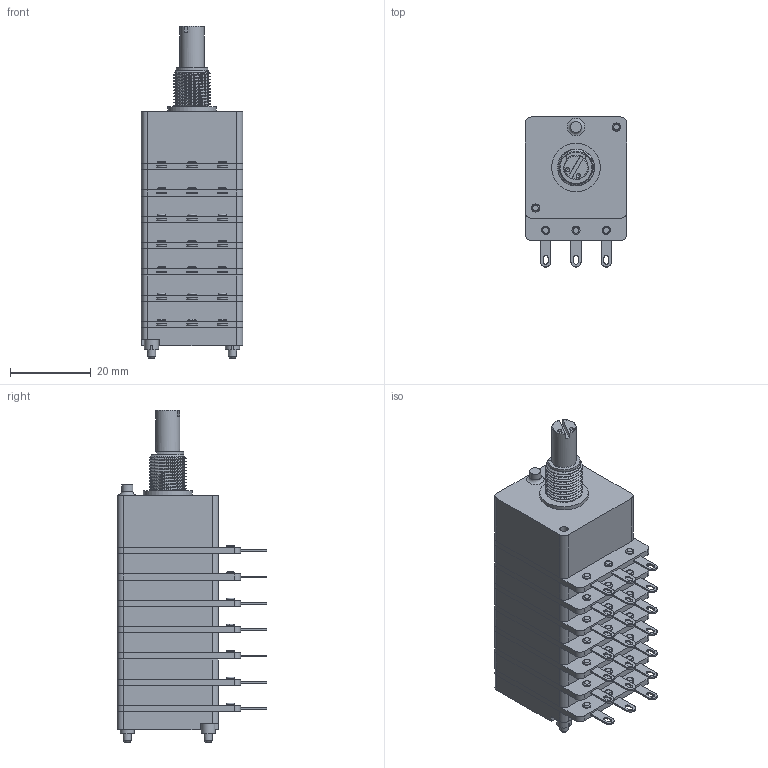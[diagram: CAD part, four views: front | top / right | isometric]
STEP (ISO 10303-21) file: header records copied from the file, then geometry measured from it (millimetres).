
FILE_DESCRIPTION(('FreeCAD Model'),'2;1');
FILE_NAME('Open CASCADE Shape Model','2024-02-27T10:41:51',(''),(''), 'Open CASCADE STEP processor 7.6','FreeCAD','Unknown');
FILE_SCHEMA(('AUTOMOTIVE_DESIGN { 1 0 10303 214 1 1 1 1 }'));
Products named in the file (1): 7cp25xx-sm20
Bounding box: 25 x 37 x 82 mm (x, y, z)
Volume: 38248.9 mm3; surface area: 12344.8 mm2
Topology: 1 solids, 36 shells, 693 faces, 1512 edges, 951 vertices
Faces by surface type: plane 359, cylinder 263, bspline 38, torus 25, cone 6, sphere 2
Full cylindrical faces by diameter (mm): 1.9 x2, 2 x53, 2.2 x26, 2.8 x1, 3.5 x2, 4.5 x7, 5.4 x1, 6 x1, 6.05 x1, 8 x1, 9.09 x11, 12 x1
Entity records: 49359 total; most frequent: CARTESIAN_POINT 17246, DIRECTION 5428, ORIENTED_EDGE 3018, PCURVE 3018, DEFINITIONAL_REPRESENTATION 3018, LINE 2712, VECTOR 2712, EDGE_CURVE 1509
